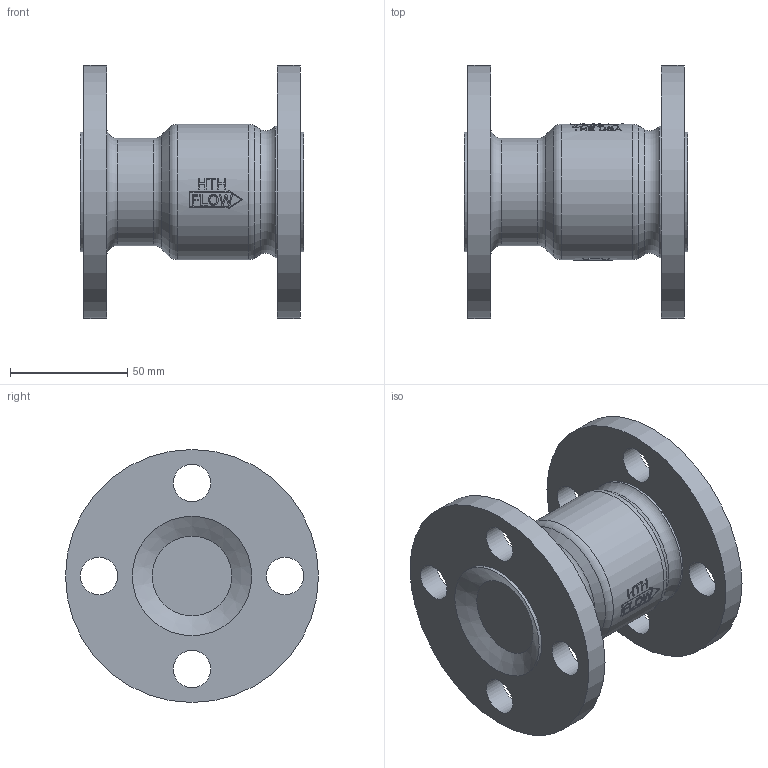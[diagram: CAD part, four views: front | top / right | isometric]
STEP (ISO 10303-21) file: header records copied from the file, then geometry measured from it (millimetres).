
FILE_DESCRIPTION( ( 'Unknown' ), '1' );
FILE_NAME( 'Y:/ENGR/3D Solid Edge Models/HT/HT-PRT/HTH.stp', 'Unknown', ( 'Unknown' ), ( 'Unknown' ), 'PSStep 14.0', 'Unknown', ' ' );
FILE_SCHEMA( ( 'AUTOMOTIVE_DESIGN { 1 0 10303 214 1 1 1 1 }' ) );
Length unit declared in the file: inch
Products named in the file (1): 1
Bounding box: 95.38 x 107.95 x 107.95 mm (x, y, z)
Volume: 316830.4 mm3; surface area: 53793.2 mm2
Topology: 1 solids, 1 shells, 420 faces, 1092 edges, 727 vertices
Faces by surface type: plane 261, bspline 87, cylinder 64, torus 5, cone 3
Full cylindrical faces by diameter (mm): 15.875 x8, 40.64 x1, 45.805 x1, 50.927 x1, 50.952 x1, 56.261 x1, 57.785 x1, 107.95 x2
Entity records: 21070 total; most frequent: CARTESIAN_POINT 9752, ORIENTED_EDGE 2114, EDGE_CURVE 1057, B_SPLINE_CURVE_WITH_KNOTS 1019, DIRECTION 744, VERTEX_POINT 720, EDGE_LOOP 517, FACE_OUTER_BOUND 445
